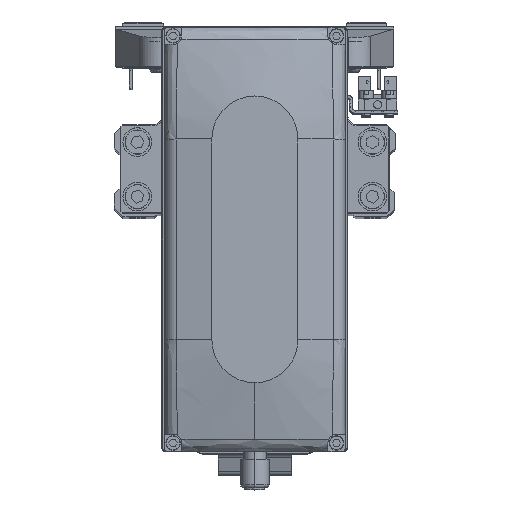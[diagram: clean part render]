
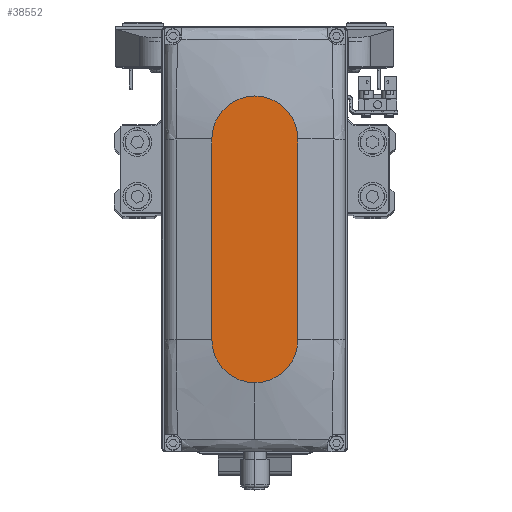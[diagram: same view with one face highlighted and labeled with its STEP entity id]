
A CAD part, top view. The second image highlights one B-rep face of the part: STEP entity #38552.
In plain terms, the highlighted planar face has unit normal (0, 0, 1).
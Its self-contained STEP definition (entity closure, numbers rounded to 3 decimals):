
#510 = VERTEX_POINT ( 'NONE', #14193 ) ;
#737 = VERTEX_POINT ( 'NONE', #26730 ) ;
#1052 = DIRECTION ( 'NONE',  ( 0., 0., 1. ) ) ;
#1169 = DIRECTION ( 'NONE',  ( -1., 0., 0. ) ) ;
#3091 = ORIENTED_EDGE ( 'NONE', *, *, #35273, .T. ) ;
#3467 = DIRECTION ( 'NONE',  ( 0., 0., 1. ) ) ;
#4264 = VERTEX_POINT ( 'NONE', #23894 ) ;
#4559 = ORIENTED_EDGE ( 'NONE', *, *, #19894, .T. ) ;
#5589 = DIRECTION ( 'NONE',  ( 1., 0., 0. ) ) ;
#6393 = CIRCLE ( 'NONE', #31396, 15. ) ;
#6455 = EDGE_CURVE ( 'NONE', #30975, #737, #8794, .T. ) ;
#6521 = CARTESIAN_POINT ( 'NONE',  ( -35., 15., 35. ) ) ;
#6852 = FACE_OUTER_BOUND ( 'NONE', #10179, .T. ) ;
#8794 = CIRCLE ( 'NONE', #33816, 15. ) ;
#10179 = EDGE_LOOP ( 'NONE', ( #43816, #42549, #3091, #4559, #24725 ) ) ;
#10542 = CARTESIAN_POINT ( 'NONE',  ( 35., 0., 35. ) ) ;
#11576 = CARTESIAN_POINT ( 'NONE',  ( -35., -15., 35. ) ) ;
#11895 = VERTEX_POINT ( 'NONE', #14648 ) ;
#14193 = CARTESIAN_POINT ( 'NONE',  ( 35., -15., 35. ) ) ;
#14648 = CARTESIAN_POINT ( 'NONE',  ( 35., 15., 35. ) ) ;
#14725 = DIRECTION ( 'NONE',  ( 1., 0., 0. ) ) ;
#17144 = DIRECTION ( 'NONE',  ( 1., 0., 0. ) ) ;
#17730 = VECTOR ( 'NONE', #1169, 1000. ) ;
#18220 = LINE ( 'NONE', #31858, #17730 ) ;
#19894 = EDGE_CURVE ( 'NONE', #510, #4264, #44071, .T. ) ;
#20511 = PLANE ( 'NONE',  #20962 ) ;
#20962 = AXIS2_PLACEMENT_3D ( 'NONE', #34151, #3467, #17144 ) ;
#22626 = CARTESIAN_POINT ( 'NONE',  ( -35., 0., 35. ) ) ;
#23894 = CARTESIAN_POINT ( 'NONE',  ( 50., 0., 35. ) ) ;
#24203 = DIRECTION ( 'NONE',  ( 0., 0., 1. ) ) ;
#24725 = ORIENTED_EDGE ( 'NONE', *, *, #26692, .T. ) ;
#24786 = AXIS2_PLACEMENT_3D ( 'NONE', #31733, #1052, #14725 ) ;
#25250 = DIRECTION ( 'NONE',  ( 1., 0., 0. ) ) ;
#26692 = EDGE_CURVE ( 'NONE', #4264, #11895, #6393, .T. ) ;
#26730 = CARTESIAN_POINT ( 'NONE',  ( -35., -15., 35. ) ) ;
#29980 = VECTOR ( 'NONE', #25250, 1000. ) ;
#30975 = VERTEX_POINT ( 'NONE', #6521 ) ;
#31396 = AXIS2_PLACEMENT_3D ( 'NONE', #10542, #24203, #37844 ) ;
#31733 = CARTESIAN_POINT ( 'NONE',  ( 35., 0., 35. ) ) ;
#31858 = CARTESIAN_POINT ( 'NONE',  ( -35., 15., 35. ) ) ;
#32039 = EDGE_CURVE ( 'NONE', #11895, #30975, #18220, .T. ) ;
#33816 = AXIS2_PLACEMENT_3D ( 'NONE', #22626, #36265, #5589 ) ;
#34151 = CARTESIAN_POINT ( 'NONE',  ( 0., 0., 35. ) ) ;
#35273 = EDGE_CURVE ( 'NONE', #737, #510, #42232, .T. ) ;
#36265 = DIRECTION ( 'NONE',  ( 0., 0., 1. ) ) ;
#37844 = DIRECTION ( 'NONE',  ( 1., 0., 0. ) ) ;
#38552 = ADVANCED_FACE ( 'NONE', ( #6852 ), #20511, .T. ) ;
#42232 = LINE ( 'NONE', #11576, #29980 ) ;
#42549 = ORIENTED_EDGE ( 'NONE', *, *, #6455, .T. ) ;
#43816 = ORIENTED_EDGE ( 'NONE', *, *, #32039, .T. ) ;
#44071 = CIRCLE ( 'NONE', #24786, 15. ) ;
